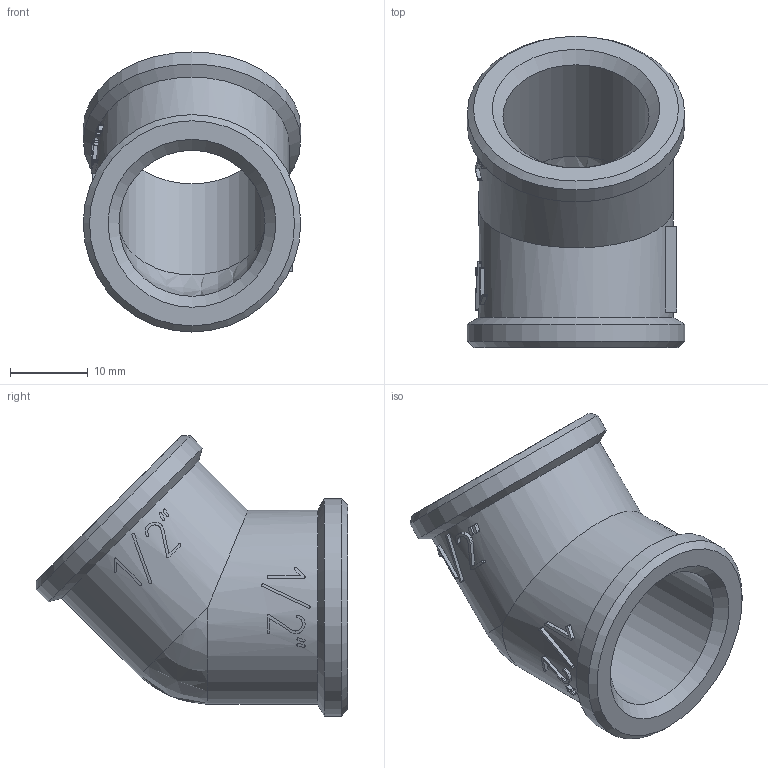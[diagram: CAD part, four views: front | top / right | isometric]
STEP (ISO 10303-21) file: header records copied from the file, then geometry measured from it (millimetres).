
FILE_DESCRIPTION(('STEP AP203'), '1');
FILE_NAME('ÂÐ.752216.006 - VTr.091.N.0004 - Ôèò. ðåçüá. óãîë', '2024-06-20T11:14:25', ('Boss'), (''), 'C3D Converter', 'C3D Toolkit', '');
FILE_SCHEMA(('CONFIG_CONTROL_DESIGN'));
Length unit declared in the file: millimetre
Products named in the file (1): ВР.752216.006
Bounding box: 28 x 40.06 x 36.06 mm (x, y, z)
Volume: 8421.5 mm3; surface area: 5782.3 mm2
Topology: 1 solids, 1 shells, 206 faces, 571 edges, 375 vertices
Faces by surface type: extrusion 116, plane 65, cylinder 17, cone 6, sphere 2
Full cylindrical faces by diameter (mm): 18.8 x2, 25 x2, 28 x2
Entity records: 8826 total; most frequent: CARTESIAN_POINT 4258, ORIENTED_EDGE 1108, DIRECTION 575, EDGE_CURVE 554, VERTEX_POINT 375, B_SPLINE_CURVE_WITH_KNOTS 348, VECTOR 327, EDGE_LOOP 233
